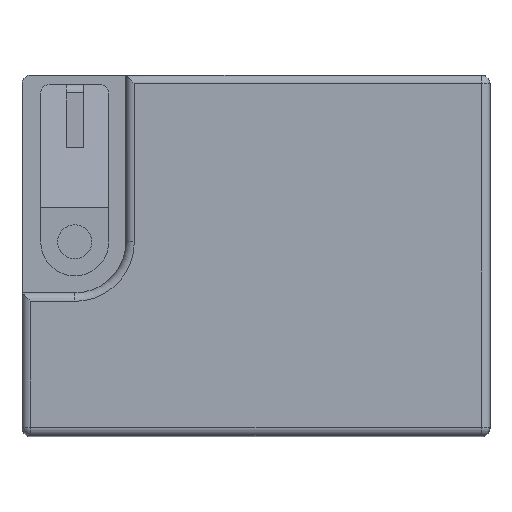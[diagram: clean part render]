
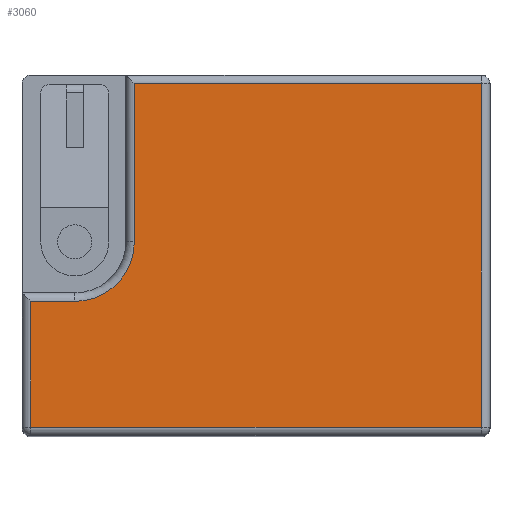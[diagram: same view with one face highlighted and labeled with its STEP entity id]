
A CAD part, top view. The second image highlights one B-rep face of the part: STEP entity #3060.
In plain terms, the highlighted planar face has unit normal (0, 0, 1).
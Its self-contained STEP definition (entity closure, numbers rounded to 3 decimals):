
#157=CIRCLE('',#3306,3.5);
#315=FACE_OUTER_BOUND('',#511,.T.);
#511=EDGE_LOOP('',(#2688,#2689,#2690,#2691,#2692,#2693,#2694));
#788=LINE('',#4804,#1136);
#837=LINE('',#4914,#1185);
#845=LINE('',#4939,#1193);
#848=LINE('',#4946,#1196);
#851=LINE('',#4954,#1199);
#852=LINE('',#4957,#1200);
#1136=VECTOR('',#3852,1000.);
#1185=VECTOR('',#4023,1000.);
#1193=VECTOR('',#4055,1000.);
#1196=VECTOR('',#4062,1000.);
#1199=VECTOR('',#4071,1000.);
#1200=VECTOR('',#4074,1000.);
#1471=VERTEX_POINT('',#4781);
#1472=VERTEX_POINT('',#4800);
#1473=VERTEX_POINT('',#4802);
#1478=VERTEX_POINT('',#4937);
#1480=VERTEX_POINT('',#4945);
#1482=VERTEX_POINT('',#4953);
#1483=VERTEX_POINT('',#4955);
#1823=EDGE_CURVE('',#1472,#1473,#788,.T.);
#1874=EDGE_CURVE('',#1473,#1471,#837,.T.);
#1886=EDGE_CURVE('',#1471,#1478,#845,.T.);
#1889=EDGE_CURVE('',#1480,#1472,#848,.T.);
#1893=EDGE_CURVE('',#1478,#1482,#851,.T.);
#1894=EDGE_CURVE('',#1482,#1483,#157,.T.);
#1895=EDGE_CURVE('',#1483,#1480,#852,.T.);
#2688=ORIENTED_EDGE('',*,*,#1874,.T.);
#2689=ORIENTED_EDGE('',*,*,#1886,.T.);
#2690=ORIENTED_EDGE('',*,*,#1893,.T.);
#2691=ORIENTED_EDGE('',*,*,#1894,.T.);
#2692=ORIENTED_EDGE('',*,*,#1895,.T.);
#2693=ORIENTED_EDGE('',*,*,#1889,.T.);
#2694=ORIENTED_EDGE('',*,*,#1823,.T.);
#2908=PLANE('',#3305);
#3060=ADVANCED_FACE('',(#315),#2908,.T.);
#3305=AXIS2_PLACEMENT_3D('',#4952,#4069,#4070);
#3306=AXIS2_PLACEMENT_3D('',#4956,#4072,#4073);
#3852=DIRECTION('',(1.,0.,0.));
#4023=DIRECTION('',(0.,1.,0.));
#4055=DIRECTION('',(-1.,0.,0.));
#4062=DIRECTION('',(0.,-1.,0.));
#4069=DIRECTION('center_axis',(0.,0.,1.));
#4070=DIRECTION('ref_axis',(1.,0.,0.));
#4071=DIRECTION('',(0.,-1.,0.));
#4072=DIRECTION('center_axis',(0.,0.,-1.));
#4073=DIRECTION('ref_axis',(1.,0.,0.));
#4074=DIRECTION('',(-1.,0.,0.));
#4781=CARTESIAN_POINT('',(13.25,10.1,35.6));
#4800=CARTESIAN_POINT('',(-13.25,-10.1,35.6));
#4802=CARTESIAN_POINT('',(13.25,-10.1,35.6));
#4804=CARTESIAN_POINT('',(13.75,-10.1,35.6));
#4914=CARTESIAN_POINT('',(13.25,10.6,35.6));
#4937=CARTESIAN_POINT('',(-7.15,10.1,35.6));
#4939=CARTESIAN_POINT('',(-7.65,10.1,35.6));
#4945=CARTESIAN_POINT('',(-13.25,-2.7,35.6));
#4946=CARTESIAN_POINT('',(-13.25,-10.6,35.6));
#4952=CARTESIAN_POINT('Origin',(-13.75,-10.6,35.6));
#4953=CARTESIAN_POINT('',(-7.15,0.8,35.6));
#4954=CARTESIAN_POINT('',(-7.15,0.8,35.6));
#4955=CARTESIAN_POINT('',(-10.65,-2.7,35.6));
#4956=CARTESIAN_POINT('Origin',(-10.65,0.8,35.6));
#4957=CARTESIAN_POINT('',(-13.75,-2.7,35.6));
